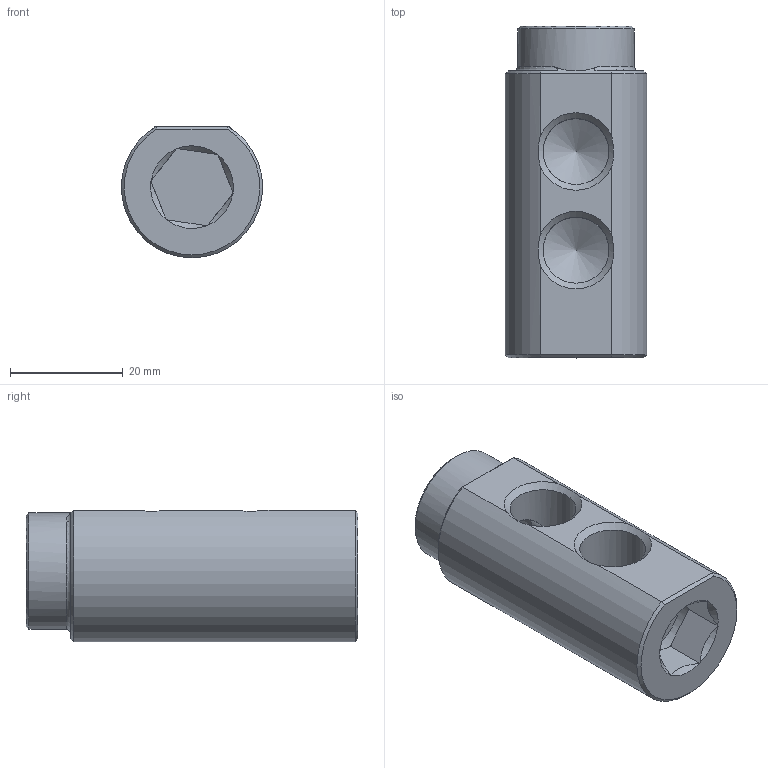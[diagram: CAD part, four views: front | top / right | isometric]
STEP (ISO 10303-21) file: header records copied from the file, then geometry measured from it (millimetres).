
FILE_DESCRIPTION(/* description */ (''),/* implementation_level */ '2;1');
FILE_NAME(/* name */ 'C:/Users/drich/Desktop/E146H-4 v2.step',/* time_stamp */ '2019-11-18T13:46:05-06:00',/* author */ (''),/* organization */ (''),/* preprocessor_version */ 'ST-DEVELOPER v18',/* originating_system */ 'Autodesk Translation Framework v8.12.0.6',/* authorisation */ '');
FILE_SCHEMA (('AUTOMOTIVE_DESIGN { 1 0 10303 214 3 1 1 }'));
Length unit declared in the file: inch
Products named in the file (2): E146H-4; E181H
Assembly tree (1 placements, depth 2):
  E146H-4
    E181H
Bounding box: 25.02 x 58.72 x 23.29 mm (x, y, z)
Volume: 19329.9 mm3; surface area: 7616.2 mm2
Topology: 1 solids, 1 shells, 43 faces, 117 edges, 76 vertices
Faces by surface type: cone 16, plane 16, cylinder 10, torus 1
Full cylindrical faces by diameter (mm): 6.909 x1, 9.525 x1, 11.668 x3, 14.732 x1, 20.625 x1
Entity records: 1595 total; most frequent: CARTESIAN_POINT 477, ORIENTED_EDGE 230, DIRECTION 214, EDGE_CURVE 115, AXIS2_PLACEMENT_3D 82, VERTEX_POINT 76, LINE 50, VECTOR 50
